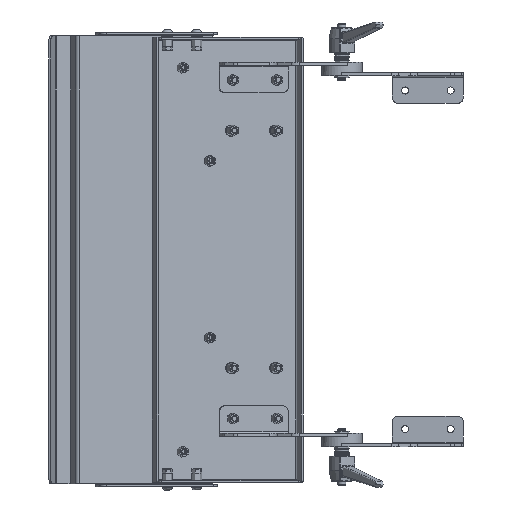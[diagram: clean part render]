
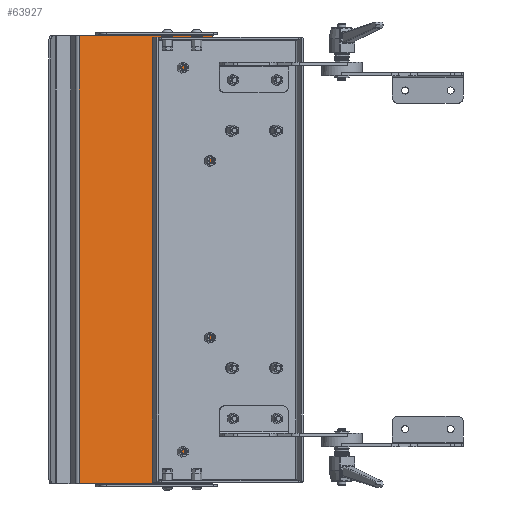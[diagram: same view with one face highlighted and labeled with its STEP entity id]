
A CAD part, front view. The second image highlights one B-rep face of the part: STEP entity #63927.
In plain terms, the highlighted planar face has unit normal (0.259, -0.966, 0).
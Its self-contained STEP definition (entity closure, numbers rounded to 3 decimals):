
#3933 = CARTESIAN_POINT ( 'NONE',  ( -313.341, -28.817, 531.51 ) ) ;
#4260 = DIRECTION ( 'NONE',  ( -0.259, 0.966, 0. ) ) ;
#5895 = CARTESIAN_POINT ( 'NONE',  ( -197.43, 2.242, 88.51 ) ) ;
#7524 = VECTOR ( 'NONE', #50320, 1000. ) ;
#8531 = VERTEX_POINT ( 'NONE', #63575 ) ;
#10511 = CARTESIAN_POINT ( 'NONE',  ( -197.43, 2.242, 88.51 ) ) ;
#13250 = CARTESIAN_POINT ( 'NONE',  ( -329.762, -33.217, 531.51 ) ) ;
#14207 = ORIENTED_EDGE ( 'NONE', *, *, #41133, .F. ) ;
#14574 = FACE_OUTER_BOUND ( 'NONE', #17560, .T. ) ;
#15366 = DIRECTION ( 'NONE',  ( 0.966, 0.259, 0. ) ) ;
#15672 = PLANE ( 'NONE',  #33772 ) ;
#17560 = EDGE_LOOP ( 'NONE', ( #28175, #49833, #39312, #14207, #50941, #71987 ) ) ;
#18834 = VERTEX_POINT ( 'NONE', #13250 ) ;
#20295 = VERTEX_POINT ( 'NONE', #63092 ) ;
#20835 = EDGE_CURVE ( 'NONE', #18834, #36455, #65939, .T. ) ;
#20848 = DIRECTION ( 'NONE',  ( 0., 0., 1. ) ) ;
#26978 = VECTOR ( 'NONE', #15366, 1000. ) ;
#27779 = CARTESIAN_POINT ( 'NONE',  ( -329.762, -33.217, 531.51 ) ) ;
#28175 = ORIENTED_EDGE ( 'NONE', *, *, #20835, .T. ) ;
#28609 = LINE ( 'NONE', #34128, #47795 ) ;
#31431 = EDGE_CURVE ( 'NONE', #20295, #40681, #54214, .T. ) ;
#33772 = AXIS2_PLACEMENT_3D ( 'NONE', #71058, #4260, #20848 ) ;
#33841 = LINE ( 'NONE', #5895, #7524 ) ;
#34128 = CARTESIAN_POINT ( 'NONE',  ( -197.43, 2.242, 88.51 ) ) ;
#36455 = VERTEX_POINT ( 'NONE', #66832 ) ;
#38027 = DIRECTION ( 'NONE',  ( -0.966, -0.259, 0. ) ) ;
#38523 = EDGE_CURVE ( 'NONE', #18834, #20295, #40127, .T. ) ;
#39312 = ORIENTED_EDGE ( 'NONE', *, *, #43524, .F. ) ;
#40127 = LINE ( 'NONE', #63570, #72016 ) ;
#40681 = VERTEX_POINT ( 'NONE', #43766 ) ;
#41133 = EDGE_CURVE ( 'NONE', #40681, #65096, #28609, .T. ) ;
#41196 = DIRECTION ( 'NONE',  ( 0.966, 0.259, 0. ) ) ;
#43524 = EDGE_CURVE ( 'NONE', #65096, #8531, #33841, .T. ) ;
#43766 = CARTESIAN_POINT ( 'NONE',  ( -197.43, 2.242, 531.51 ) ) ;
#44034 = DIRECTION ( 'NONE',  ( 0., 0., -1. ) ) ;
#47795 = VECTOR ( 'NONE', #44034, 1000. ) ;
#49304 = VECTOR ( 'NONE', #38027, 1000. ) ;
#49833 = ORIENTED_EDGE ( 'NONE', *, *, #65921, .F. ) ;
#50320 = DIRECTION ( 'NONE',  ( -0.966, -0.259, 0. ) ) ;
#50877 = DIRECTION ( 'NONE',  ( 0., 0., -1. ) ) ;
#50941 = ORIENTED_EDGE ( 'NONE', *, *, #31431, .F. ) ;
#54214 = LINE ( 'NONE', #3933, #26978 ) ;
#61483 = LINE ( 'NONE', #10511, #49304 ) ;
#61810 = VECTOR ( 'NONE', #50877, 1000. ) ;
#63092 = CARTESIAN_POINT ( 'NONE',  ( -313.341, -28.817, 531.51 ) ) ;
#63570 = CARTESIAN_POINT ( 'NONE',  ( -197.43, 2.242, 531.51 ) ) ;
#63575 = CARTESIAN_POINT ( 'NONE',  ( -313.341, -28.817, 88.51 ) ) ;
#63927 = ADVANCED_FACE ( 'NONE', ( #14574 ), #15672, .F. ) ;
#64005 = CARTESIAN_POINT ( 'NONE',  ( -197.43, 2.242, 88.51 ) ) ;
#65096 = VERTEX_POINT ( 'NONE', #64005 ) ;
#65921 = EDGE_CURVE ( 'NONE', #8531, #36455, #61483, .T. ) ;
#65939 = LINE ( 'NONE', #27779, #61810 ) ;
#66832 = CARTESIAN_POINT ( 'NONE',  ( -329.762, -33.217, 88.51 ) ) ;
#71058 = CARTESIAN_POINT ( 'NONE',  ( -265.045, -15.876, 310.01 ) ) ;
#71987 = ORIENTED_EDGE ( 'NONE', *, *, #38523, .F. ) ;
#72016 = VECTOR ( 'NONE', #41196, 1000. ) ;
